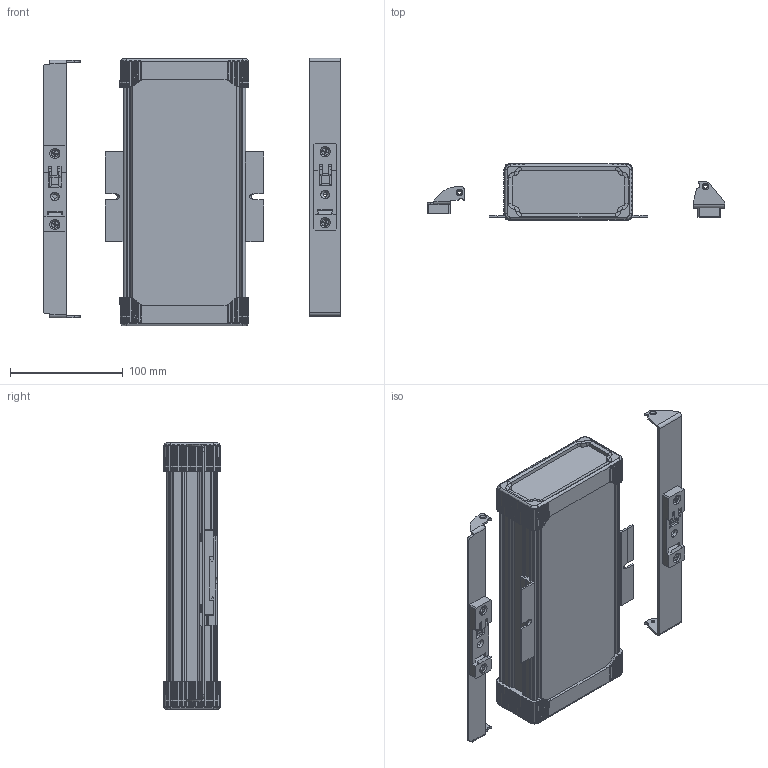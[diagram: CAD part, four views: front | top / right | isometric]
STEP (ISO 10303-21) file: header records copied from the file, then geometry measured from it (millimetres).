
FILE_DESCRIPTION (( 'STEP AP214' ), '1' );
FILE_NAME ('B3-220 Assembly.STEP', '2025-06-09T16:51:39', ( '' ), ( '' ), 'SwSTEP 2.0', 'SolidWorks 2025', '' );
FILE_SCHEMA (( 'AUTOMOTIVE_DESIGN' ));
Length unit declared in the file: millimetre
Products named in the file (18): BRH220 assembly; SEALING WASHER; End Plate; spring; Pusher; BRH220; Torx Screw M3X0.5; BRV220; EC3_END_CAP_OPTIONAL_ACCESSORY; Clamp mechanism; SK1 Seal; 6-32 PEM Nut; B3-220 Assembly; Screw assembly; BRV220 assembly; MF-80; B3-220 Main Body; CR-FHMS 0.138-32x0.375x0.375-N_CR-FHMS 0.138-32x0.375x0.375-N
Assembly tree (37 placements, depth 3):
  B3-220 Assembly
    B3-220 Main Body
    SK1 Seal  x2
    End Plate  x2
    Screw assembly  x8
      SEALING WASHER
      Torx Screw M3X0.5
    EC3_END_CAP_OPTIONAL_ACCESSORY  x2
    MF-80  x2
    BRH220 assembly
      Clamp mechanism
      BRH220
      Pusher
      spring
      6-32 PEM Nut  x2
      CR-FHMS 0.138-32x0.375x0.375-N_CR-FHMS 0.138-32x0.375x0.375-N  x2
    BRV220 assembly
      Clamp mechanism
      Pusher
      spring
      6-32 PEM Nut  x2
      CR-FHMS 0.138-32x0.375x0.375-N_CR-FHMS 0.138-32x0.375x0.375-N  x2
      BRV220
Bounding box: 264.27 x 51 x 237 mm (x, y, z)
Volume: 269123.4 mm3; surface area: 271763.2 mm2
Topology: 41 solids, 41 shells, 2838 faces, 7322 edges, 4604 vertices
Faces by surface type: cylinder 934, plane 882, bspline 706, cone 300, torus 16
Entity records: 74507 total; most frequent: CARTESIAN_POINT 30975, ORIENTED_EDGE 8140, DIRECTION 5982, EDGE_CURVE 4070, VERTEX_POINT 2579, AXIS2_PLACEMENT_3D 2084, VECTOR 1814, LINE 1814
